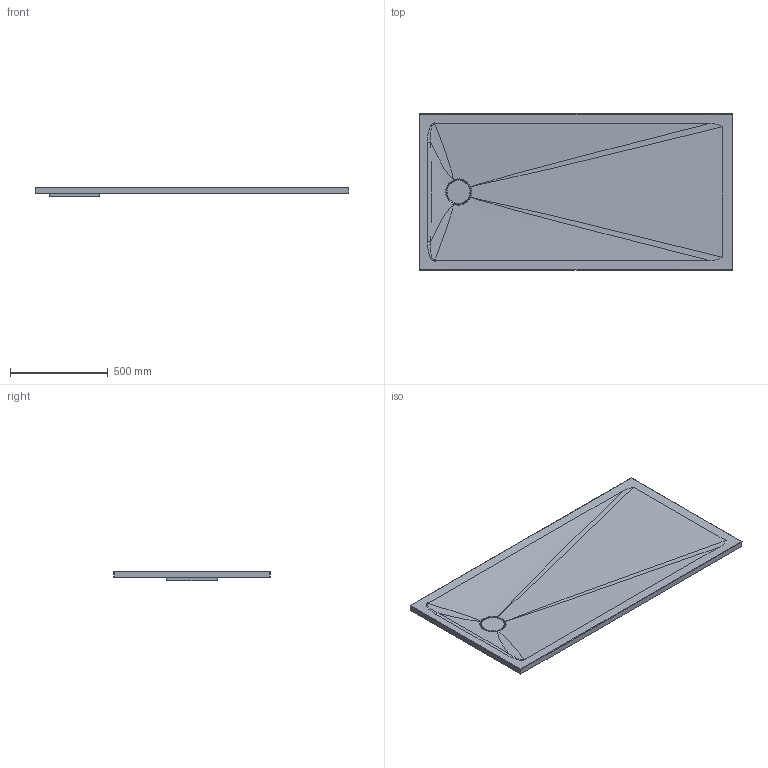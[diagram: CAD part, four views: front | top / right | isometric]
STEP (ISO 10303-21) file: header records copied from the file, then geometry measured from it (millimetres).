
FILE_DESCRIPTION (( 'STEP AP214' ), '1' );
FILE_NAME ('ARON 160x80.STEP', '2024-05-13T11:35:50', ( '' ), ( '' ), 'SwSTEP 2.0', 'SolidWorks 2021', '' );
FILE_SCHEMA (( 'AUTOMOTIVE_DESIGN' ));
Length unit declared in the file: millimetre
Products named in the file (1): ARON 160x80
Bounding box: 1600 x 800 x 48 mm (x, y, z)
Volume: 31681162 mm3; surface area: 2736838.3 mm2
Topology: 2 solids, 2 shells, 75 faces, 170 edges, 101 vertices
Faces by surface type: bspline 39, cylinder 19, plane 17
Full cylindrical faces by diameter (mm): 9 x3, 90 x1, 119 x1
Entity records: 12077 total; most frequent: CARTESIAN_POINT 10696, ORIENTED_EDGE 316, DIRECTION 164, EDGE_CURVE 158, VERTEX_POINT 101, B_SPLINE_CURVE_WITH_KNOTS 94, EDGE_LOOP 91, FACE_OUTER_BOUND 83
